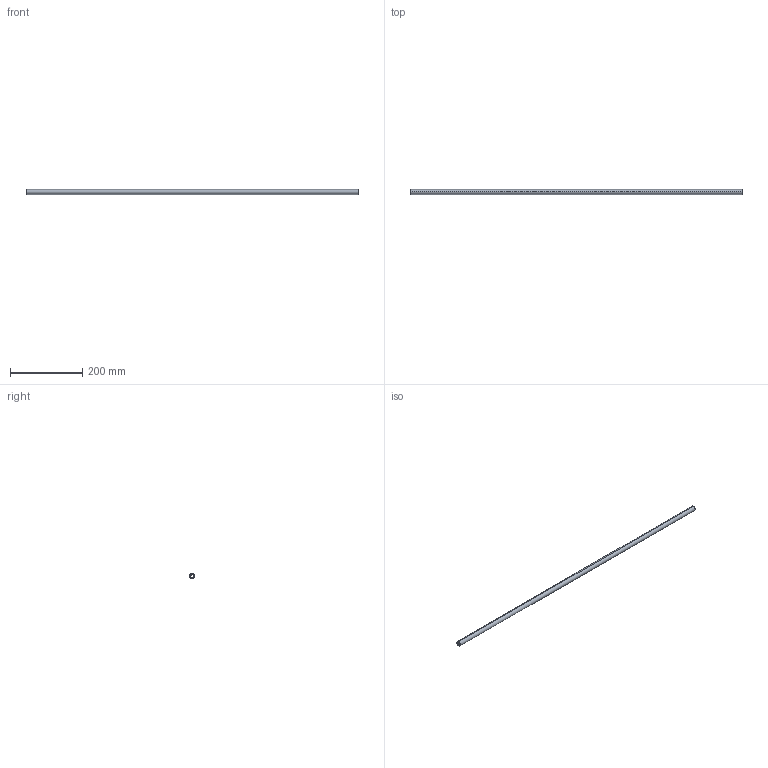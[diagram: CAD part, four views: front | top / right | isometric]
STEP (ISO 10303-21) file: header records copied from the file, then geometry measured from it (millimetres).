
FILE_DESCRIPTION (( 'STEP AP214' ), '1' );
FILE_NAME ('SyncronisationsstangeXP_KAB_1050_16.step', '2009-11-24T08:53:27', ( 'Grass' ), ( 'Grass GmbH' ), 'SwSTEP 2.0', 'SolidWorks 2009', '' );
FILE_SCHEMA (( 'AUTOMOTIVE_DESIGN' ));
Length unit declared in the file: millimetre
Products named in the file (1): SyncronisationsstangeXP_KAB_1050_16
Bounding box: 921 x 14 x 14 mm (x, y, z)
Volume: 99587.5 mm3; surface area: 64191.8 mm2
Topology: 1 solids, 1 shells, 15 faces, 39 edges, 26 vertices
Faces by surface type: cylinder 11, plane 4
Entity records: 513 total; most frequent: DIRECTION 93, CARTESIAN_POINT 81, ORIENTED_EDGE 78, EDGE_CURVE 39, AXIS2_PLACEMENT_3D 38, VERTEX_POINT 26, CIRCLE 22, VECTOR 17
